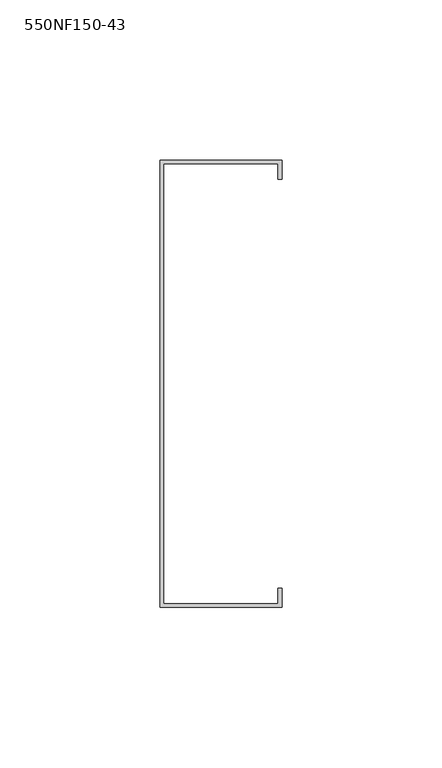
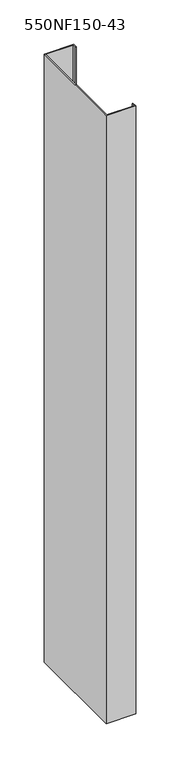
"""IFC4 building model written with IfcOpenShell, lengths in millimetres: column geometry, BIMSF-SSMA-S-Column : 550NF150-43."""

from ifc_helpers import new_model, si_unit, frame, origin, place, context, project, spatial, polyline, outline, extrude, source, transform, mapped, element, save


def column_550nf150_43_696eef58(model_context):
    return source(origin(), model_context, "Body", "SweptSolid", [
        extrude(outline(polyline([(-11.9977877, -80.5871249), (-11.9977877, 59.1128751), (26.1022123, 59.1128751), (26.1022123, 53.1879908), (24.952528, 53.1879908), (24.952528, 57.9631908), (-10.8481035, 57.9631908), (-10.8481035, -79.4374407), (24.952528, -79.4374407), (24.952528, -74.6622407), (26.1022123, -74.6622407), (26.1022123, -80.5871249), (-11.9977877, -80.5871249)])), frame((0.0, 0.0, 5525.3929688), z_axis=(0.0, 0.0, 1.0), x_axis=(1.0, 0.0, 0.0)), (0.0, 0.0, 1.0), 837.1416667),
    ])


if __name__ == "__main__":
    model = new_model("IFC4")
    model_context = context("Model", 3, world=origin())
    ifc_project = project(units=[si_unit("LENGTHUNIT", "METRE", prefix="MILLI")], contexts=[model_context])
    site = spatial("IfcSite", under=ifc_project)
    building = spatial("IfcBuilding", under=site)
    placement = place(None, origin())
    column_550nf150_43_shape = column_550nf150_43_696eef58(model_context)
    element("IfcColumn", 1, ObjectType="BIMSF-SSMA-S-Column : 550NF150-43", at=placement, inside=building, context=model_context, shape_type="MappedRepresentation", body=[
        mapped(column_550nf150_43_shape, transform((0.0, 0.0, 0.0), x_axis=(1.0, 0.0, 0.0), y_axis=(0.0, 1.0, 0.0), z_axis=(0.0, 0.0, 1.0))),
    ])
    save(model, "model.ifc")
